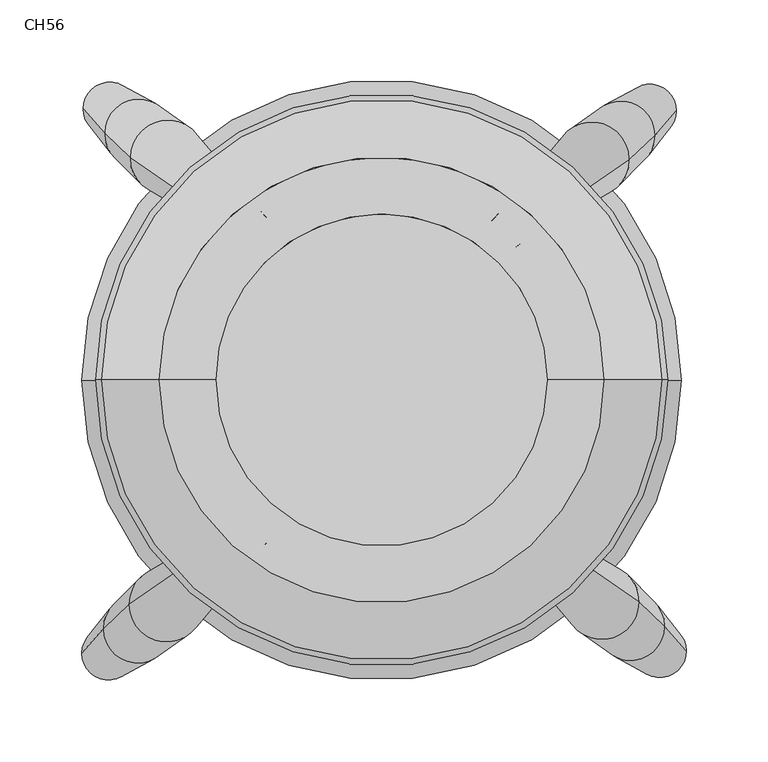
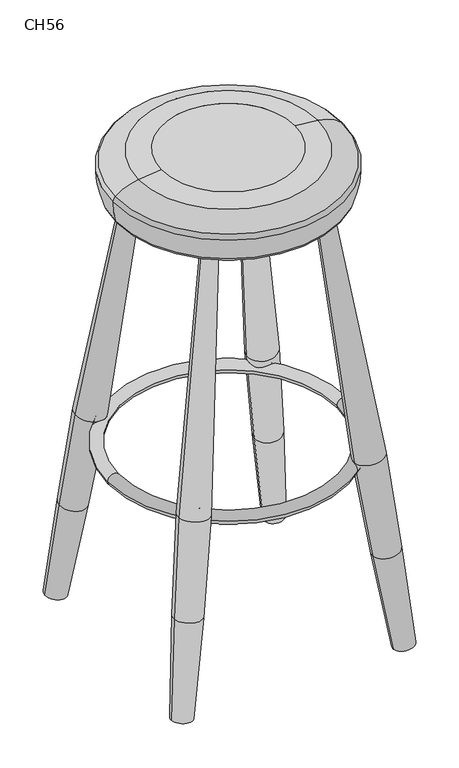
"""IFC4 building model written with IfcOpenShell, lengths in millimetres: furniture geometry, CarlHansen_Seating_Stool_CH56-CH58Barstool : CH56."""

from ifc_helpers import new_model, si_unit, point, frame, origin, place, context, project, spatial, polyline, circle_curve, ellipse_curve, trimmed, source, transform, mapped, element, save
from ifc_brep_helpers import plane_surface, revolved_surface, advanced_brep


def ch56_47536423(model_context):
    return source(origin(), model_context, "Body", "AdvancedBrep", [
        advanced_brep(
        [(-492.5608792, 94.6083852, -3.1092846), (-460.3854724, 94.9926508, 0.6982237), (-476.700753, 94.9926508, 0.6982237), (-514.9278441, 109.5197253, 144.6402127), (-473.4740897, 110.0148007, 149.5456834), (-534.6580982, 124.4365243, 292.4437991), (-489.1386117, 124.980156, 297.8303921), (-575.6798559, 169.0060112, 734.0620063), (-553.3717237, 169.2724335, 736.701861), (-564.4611939, 169.0846871, 734.8415692)],
        [
            (0, 1, circle_curve(frame((-476.4731758, 94.800518, -1.2055305), z_axis=(0.11810468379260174, -0.09971026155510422, -0.9879823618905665), x_axis=(0.9930011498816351, 0.011859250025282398, 0.11750776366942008)), 16.2010924)),
            (1, 2),
            (2, 0),
            (1, 0, circle_curve(frame((-476.4731758, 94.800518, -1.2055305), z_axis=(0.11810468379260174, -0.09971026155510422, -0.9879823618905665), x_axis=(0.9930011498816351, 0.011859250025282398, 0.11750776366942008)), 16.2010924)),
            (3, 4, circle_curve(frame((-494.2009669, 109.767263, 147.0929481), z_axis=(0.11810468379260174, -0.09971026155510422, -0.9879823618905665), x_axis=(0.9930011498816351, 0.011859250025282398, 0.11750776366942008)), 20.8729639)),
            (4, 1),
            (0, 3),
            (4, 3, circle_curve(frame((-494.2009669, 109.767263, 147.0929481), z_axis=(0.11810468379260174, -0.09971026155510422, -0.9879823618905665), x_axis=(0.9930011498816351, 0.011859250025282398, 0.11750776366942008)), 20.8729639)),
            (5, 6, circle_curve(frame((-511.8983549, 124.7083401, 295.1370956), z_axis=(0.11810468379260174, -0.09971026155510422, -0.9879823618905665), x_axis=(0.9930011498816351, 0.011859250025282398, 0.11750776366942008)), 22.920158)),
            (6, 4, circle_curve(frame((-4750.4961621, 72.4411514, -222.7540402), z_axis=(0.0, 0.9949458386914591, -0.10041303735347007), x_axis=(-1.0, 0.0, 0.0)), 4293.3596019)),
            (3, 5, circle_curve(frame((3730.5450893, 173.7288374, 780.8582831), z_axis=(0.0, 0.9949458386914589, -0.10041303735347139), x_axis=(0.9721025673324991, 0.023552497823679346, 0.23337068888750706)), 4293.3596019)),
            (6, 5, circle_curve(frame((-511.8983549, 124.7083401, 295.1370956), z_axis=(0.11810468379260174, -0.09971026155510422, -0.9879823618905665), x_axis=(0.9930011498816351, 0.011859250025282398, 0.11750776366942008)), 22.920158)),
            (7, 8, circle_curve(frame((-564.5257898, 169.1392224, 735.3819337), z_axis=(0.11810468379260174, -0.09971026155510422, -0.9879823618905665), x_axis=(0.9930011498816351, 0.011859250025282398, 0.11750776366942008)), 11.2326819)),
            (8, 6, circle_curve(frame((-10352.1917575, 3.3768902, -907.0795133), z_axis=(0.0, 0.9949458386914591, -0.10041303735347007), x_axis=(-1.0, 0.0, 0.0)), 9937.1229535)),
            (5, 7, circle_curve(frame((9337.2959019, 238.5252151, 1422.8952938), z_axis=(0.0, 0.9949458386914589, -0.10041303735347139), x_axis=(0.9721025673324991, 0.023552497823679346, 0.23337068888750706)), 9937.1229535)),
            (8, 7, circle_curve(frame((-564.5257898, 169.1392224, 735.3819337), z_axis=(0.11810468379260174, -0.09971026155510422, -0.9879823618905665), x_axis=(0.9930011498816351, 0.011859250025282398, 0.11750776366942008)), 11.2326819)),
            (9, 8),
            (7, 9),
        ],
        [
            revolved_surface(polyline([(-476.700753, 94.9926508, 0.6982237), (-460.3854724, 94.9926508, 0.6982237)]), (-563.7051088, 168.4463598, 728.5166825), (-0.11810468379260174, 0.09971026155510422, 0.9879823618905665)),
            revolved_surface(polyline([(-460.3854724, 94.9926508, 0.6982237), (-473.4740897, 110.0148007, 149.5456834)]), (-563.7051088, 168.4463598, 728.5166825), (-0.11810468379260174, 0.09971026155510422, 0.9879823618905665)),
            revolved_surface(trimmed(ellipse_curve(frame((-4750.4961621, 72.4411514, -222.7540402), z_axis=(0.0, -0.9949458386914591, 0.10041303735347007), x_axis=(-1.0, 0.0, 0.0)), 4293.3596019, 4293.3596019), [point((-473.4740897, 110.0148007, 149.5456834))], [point((-489.1386117, 124.980156, 297.8303921))], True, "CARTESIAN"), (-563.7051088, 168.4463598, 728.5166825), (-0.11810468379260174, 0.09971026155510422, 0.9879823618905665)),
            revolved_surface(trimmed(ellipse_curve(frame((-4750.4961621, 72.4411514, -222.7540402), z_axis=(0.0, -0.9949458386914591, 0.10041303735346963), x_axis=(-1.0, 0.0, 0.0)), 4293.3596019, 4293.3596019), [point((-473.4740897, 110.0148007, 149.5456834))], [point((-489.1386117, 124.980156, 297.8303921))], True, "CARTESIAN"), (-563.7051088, 168.4463598, 728.5166825), (-0.11810468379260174, 0.09971026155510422, 0.9879823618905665)),
            revolved_surface(trimmed(ellipse_curve(frame((-10352.1917575, 3.3768902, -907.0795133), z_axis=(0.0, -0.9949458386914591, 0.10041303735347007), x_axis=(-1.0, 0.0, 0.0)), 9937.1229535, 9937.1229535), [point((-489.1386117, 124.980156, 297.8303921))], [point((-553.3717237, 169.2724335, 736.701861))], True, "CARTESIAN"), (-563.7051088, 168.4463598, 728.5166825), (-0.11810468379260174, 0.09971026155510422, 0.9879823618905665)),
            revolved_surface(trimmed(ellipse_curve(frame((-10352.1917575, 3.3768902, -907.0795133), z_axis=(0.0, -0.9949458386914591, 0.10041303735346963), x_axis=(-1.0, 0.0, 0.0)), 9937.1229535, 9937.1229535), [point((-489.1386117, 124.980156, 297.8303921))], [point((-553.3717237, 169.2724335, 736.701861))], True, "CARTESIAN"), (-563.7051088, 168.4463598, 728.5166825), (-0.11810468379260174, 0.09971026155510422, 0.9879823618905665)),
            revolved_surface(polyline([(-553.3717237, 169.2724335, 736.701861), (-564.4611939, 169.0846871, 734.8415692)]), (-563.7051088, 168.4463598, 728.5166825), (-0.11810468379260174, 0.09971026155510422, 0.9879823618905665)),
        ],
        [
            (0, [[1, 2, 3]]),
            (0, [[4, -3, -2]]),
            (1, [[5, 6, -1, 7]]),
            (1, [[8, -7, -4, -6]]),
            (2, [[9, 10, -5, 11]]),
            (3, [[12, -11, -8, -10]]),
            (4, [[13, 14, -9, 15]]),
            (5, [[16, -15, -12, -14]]),
            (6, [[17, -13, 18]]),
            (6, [[-18, -16, -17]]),
        ],
    ),
        advanced_brep(
        [(-813.9718708, 93.4826975, 1.338204), (-830.2871514, 93.4826975, 1.338204), (-798.1117446, 93.0984319, -2.4693043), (-817.1985341, 108.5048474, 150.1856637), (-775.7447797, 108.009772, 145.280193), (-801.5340121, 123.4702028, 298.4703724), (-756.0145256, 122.926571, 293.0837794), (-737.3009001, 167.7624803, 737.3418413), (-714.9927679, 167.4960579, 734.7019866), (-726.2114299, 167.5747338, 735.4815495)],
        [
            (0, 1),
            (1, 2, circle_curve(frame((-814.199448, 93.2905647, -0.5655502), z_axis=(-0.11810468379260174, -0.09971026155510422, -0.9879823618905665), x_axis=(-0.9930011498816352, 0.011859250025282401, 0.11750776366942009)), 16.2010924)),
            (2, 0),
            (2, 1, circle_curve(frame((-814.199448, 93.2905647, -0.5655502), z_axis=(-0.11810468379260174, -0.09971026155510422, -0.9879823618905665), x_axis=(-0.9930011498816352, 0.011859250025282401, 0.11750776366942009)), 16.2010924)),
            (1, 3),
            (3, 4, circle_curve(frame((-796.4716569, 108.2573097, 147.7329283), z_axis=(-0.11810468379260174, -0.09971026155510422, -0.9879823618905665), x_axis=(-0.9930011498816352, 0.011859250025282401, 0.11750776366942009)), 20.8729639)),
            (4, 2),
            (4, 3, circle_curve(frame((-796.4716569, 108.2573097, 147.7329283), z_axis=(-0.11810468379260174, -0.09971026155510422, -0.9879823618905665), x_axis=(-0.9930011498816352, 0.011859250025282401, 0.11750776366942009)), 20.8729639)),
            (3, 5, circle_curve(frame((3459.8235383, 70.9311981, -222.1140599), z_axis=(0.0, 0.9949458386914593, -0.10041303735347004), x_axis=(1.0000000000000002, 0.0, 0.0)), 4293.3596019)),
            (5, 6, circle_curve(frame((-778.7742689, 123.1983869, 295.7770759), z_axis=(-0.11810468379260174, -0.09971026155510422, -0.9879823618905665), x_axis=(-0.9930011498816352, 0.011859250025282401, 0.11750776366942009)), 22.920158)),
            (6, 4, circle_curve(frame((-5021.2177131, 172.2188841, 781.4982633), z_axis=(0.0, 0.994945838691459, -0.10041303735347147), x_axis=(-0.9721025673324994, 0.023552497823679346, 0.23337068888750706)), 4293.3596019)),
            (6, 5, circle_curve(frame((-778.7742689, 123.1983869, 295.7770759), z_axis=(-0.11810468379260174, -0.09971026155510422, -0.9879823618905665), x_axis=(-0.9930011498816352, 0.011859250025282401, 0.11750776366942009)), 22.920158)),
            (5, 7, circle_curve(frame((9061.5191337, 1.8669369, -906.439533), z_axis=(0.0, 0.9949458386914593, -0.10041303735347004), x_axis=(1.0000000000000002, 0.0, 0.0)), 9937.1229535)),
            (7, 8, circle_curve(frame((-726.146834, 167.6292691, 736.021914), z_axis=(-0.11810468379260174, -0.09971026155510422, -0.9879823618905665), x_axis=(-0.9930011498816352, 0.011859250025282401, 0.11750776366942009)), 11.2326819)),
            (8, 6, circle_curve(frame((-10627.9685257, 237.0152618, 1423.5352741), z_axis=(0.0, 0.994945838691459, -0.10041303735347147), x_axis=(-0.9721025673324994, 0.023552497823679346, 0.23337068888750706)), 9937.1229535)),
            (8, 7, circle_curve(frame((-726.146834, 167.6292691, 736.021914), z_axis=(-0.11810468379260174, -0.09971026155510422, -0.9879823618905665), x_axis=(-0.9930011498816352, 0.011859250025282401, 0.11750776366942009)), 11.2326819)),
            (7, 9),
            (9, 8),
        ],
        [
            revolved_surface(polyline([(-830.2871514, 93.4826975, 1.338204), (-813.9718708, 93.4826975, 1.338204)]), (-726.967515, 166.9364065, 729.1566628), (-0.11810468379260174, -0.09971026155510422, -0.9879823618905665)),
            revolved_surface(polyline([(-817.1985341, 108.5048474, 150.1856637), (-830.2871514, 93.4826975, 1.338204)]), (-726.967515, 166.9364065, 729.1566628), (-0.11810468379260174, -0.09971026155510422, -0.9879823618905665)),
            revolved_surface(trimmed(ellipse_curve(frame((3459.8235383, 70.9311981, -222.1140599), z_axis=(0.0, -0.9949458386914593, 0.10041303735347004), x_axis=(1.0000000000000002, 0.0, 0.0)), 4293.3596019, 4293.3596019), [point((-801.5340121, 123.4702028, 298.4703724))], [point((-817.1985341, 108.5048474, 150.1856637))], True, "CARTESIAN"), (-726.967515, 166.9364065, 729.1566628), (-0.11810468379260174, -0.09971026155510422, -0.9879823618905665)),
            revolved_surface(trimmed(ellipse_curve(frame((3459.8235383, 70.9311981, -222.1140599), z_axis=(0.0, -0.9949458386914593, 0.10041303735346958), x_axis=(1.0000000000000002, 0.0, 0.0)), 4293.3596019, 4293.3596019), [point((-801.5340121, 123.4702028, 298.4703724))], [point((-817.1985341, 108.5048474, 150.1856637))], True, "CARTESIAN"), (-726.967515, 166.9364065, 729.1566628), (-0.11810468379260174, -0.09971026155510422, -0.9879823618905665)),
            revolved_surface(trimmed(ellipse_curve(frame((9061.5191337, 1.8669369, -906.439533), z_axis=(0.0, -0.9949458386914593, 0.10041303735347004), x_axis=(1.0000000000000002, 0.0, 0.0)), 9937.1229535, 9937.1229535), [point((-737.3009001, 167.7624803, 737.3418413))], [point((-801.5340121, 123.4702028, 298.4703724))], True, "CARTESIAN"), (-726.967515, 166.9364065, 729.1566628), (-0.11810468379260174, -0.09971026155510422, -0.9879823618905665)),
            revolved_surface(trimmed(ellipse_curve(frame((9061.5191337, 1.8669369, -906.439533), z_axis=(0.0, -0.9949458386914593, 0.10041303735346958), x_axis=(1.0000000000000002, 0.0, 0.0)), 9937.1229535, 9937.1229535), [point((-737.3009001, 167.7624803, 737.3418413))], [point((-801.5340121, 123.4702028, 298.4703724))], True, "CARTESIAN"), (-726.967515, 166.9364065, 729.1566628), (-0.11810468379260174, -0.09971026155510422, -0.9879823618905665)),
            revolved_surface(polyline([(-726.2114299, 167.5747338, 735.4815495), (-737.3009001, 167.7624803, 737.3418413)]), (-726.967515, 166.9364065, 729.1566628), (-0.11810468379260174, -0.09971026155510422, -0.9879823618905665)),
        ],
        [
            (0, [[1, 2, 3]]),
            (0, [[-3, 4, -1]]),
            (1, [[-2, 5, 6, 7]]),
            (1, [[-4, -7, 8, -5]]),
            (2, [[-6, 9, 10, 11]]),
            (3, [[-8, -11, 12, -9]]),
            (4, [[-10, 13, 14, 15]]),
            (5, [[-12, -15, 16, -13]]),
            (6, [[-14, 17, 18]]),
            (6, [[-16, -18, -17]]),
        ],
    ),
        advanced_brep(
        [(-482.7138822, 425.529395, 9.366719), (-466.3986016, 425.529395, 9.366719), (-498.5740083, 425.9136606, 5.5592107), (-479.4872189, 410.5072451, 158.2141787), (-520.9409732, 411.0023205, 153.3087081), (-495.1517408, 395.5418898, 306.4988875), (-540.6712274, 396.0855216, 301.1122944), (-559.3848529, 351.2496123, 745.3703563), (-581.692985, 351.5160346, 742.7305017), (-570.4743231, 351.4373587, 743.5100645)],
        [
            (0, 1),
            (1, 2, circle_curve(frame((-482.486305, 425.7215278, 7.4629649), z_axis=(0.11810468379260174, 0.09971026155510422, -0.9879823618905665), x_axis=(0.9930011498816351, -0.011859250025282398, 0.11750776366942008)), 16.2010924)),
            (2, 0),
            (2, 1, circle_curve(frame((-482.486305, 425.7215278, 7.4629649), z_axis=(0.11810468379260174, 0.09971026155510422, -0.9879823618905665), x_axis=(0.9930011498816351, -0.011859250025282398, 0.11750776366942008)), 16.2010924)),
            (1, 3),
            (3, 4, circle_curve(frame((-500.2140961, 410.7547828, 155.7614434), z_axis=(0.11810468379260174, 0.09971026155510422, -0.9879823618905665), x_axis=(0.9930011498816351, -0.011859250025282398, 0.11750776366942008)), 20.8729639)),
            (4, 2),
            (4, 3, circle_curve(frame((-500.2140961, 410.7547828, 155.7614434), z_axis=(0.11810468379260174, 0.09971026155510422, -0.9879823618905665), x_axis=(0.9930011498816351, -0.011859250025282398, 0.11750776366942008)), 20.8729639)),
            (3, 5, circle_curve(frame((-4756.5092913, 448.0808944, -214.0855449), z_axis=(0.0, -0.9949458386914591, -0.10041303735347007), x_axis=(-1.0, 0.0, 0.0)), 4293.3596019)),
            (5, 6, circle_curve(frame((-517.9114841, 395.8137057, 303.8055909), z_axis=(0.11810468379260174, 0.09971026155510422, -0.9879823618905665), x_axis=(0.9930011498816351, -0.011859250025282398, 0.11750776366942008)), 22.920158)),
            (6, 4, circle_curve(frame((3724.5319602, 346.7932084, 789.5267784), z_axis=(0.0, -0.9949458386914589, -0.10041303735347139), x_axis=(0.9721025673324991, -0.023552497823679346, 0.23337068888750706)), 4293.3596019)),
            (6, 5, circle_curve(frame((-517.9114841, 395.8137057, 303.8055909), z_axis=(0.11810468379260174, 0.09971026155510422, -0.9879823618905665), x_axis=(0.9930011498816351, -0.011859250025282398, 0.11750776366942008)), 22.920158)),
            (5, 7, circle_curve(frame((-10358.2048867, 517.1451557, -898.411018), z_axis=(0.0, -0.9949458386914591, -0.10041303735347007), x_axis=(-1.0, 0.0, 0.0)), 9937.1229535)),
            (7, 8, circle_curve(frame((-570.538919, 351.3828235, 744.050429), z_axis=(0.11810468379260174, 0.09971026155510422, -0.9879823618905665), x_axis=(0.9930011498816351, -0.011859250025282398, 0.11750776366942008)), 11.2326819)),
            (8, 6, circle_curve(frame((9331.2827728, 281.9968308, 1431.5637891), z_axis=(0.0, -0.9949458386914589, -0.10041303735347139), x_axis=(0.9721025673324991, -0.023552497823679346, 0.23337068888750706)), 9937.1229535)),
            (8, 7, circle_curve(frame((-570.538919, 351.3828235, 744.050429), z_axis=(0.11810468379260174, 0.09971026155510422, -0.9879823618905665), x_axis=(0.9930011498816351, -0.011859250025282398, 0.11750776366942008)), 11.2326819)),
            (7, 9),
            (9, 8),
        ],
        [
            revolved_surface(polyline([(-466.3986016, 425.529395, 9.366719), (-482.7138822, 425.529395, 9.366719)]), (-569.718238, 352.075686, 737.1851779), (0.11810468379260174, 0.09971026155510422, -0.9879823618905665)),
            revolved_surface(polyline([(-479.4872189, 410.5072451, 158.2141787), (-466.3986016, 425.529395, 9.366719)]), (-569.718238, 352.075686, 737.1851779), (0.11810468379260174, 0.09971026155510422, -0.9879823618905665)),
            revolved_surface(trimmed(ellipse_curve(frame((-4756.5092913, 448.0808944, -214.0855449), z_axis=(0.0, 0.9949458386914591, 0.10041303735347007), x_axis=(-1.0, 0.0, 0.0)), 4293.3596019, 4293.3596019), [point((-495.1517408, 395.5418898, 306.4988875))], [point((-479.4872189, 410.5072451, 158.2141787))], True, "CARTESIAN"), (-569.718238, 352.075686, 737.1851779), (0.11810468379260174, 0.09971026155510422, -0.9879823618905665)),
            revolved_surface(trimmed(ellipse_curve(frame((-4756.5092913, 448.0808944, -214.0855449), z_axis=(0.0, 0.9949458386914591, 0.10041303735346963), x_axis=(-1.0, 0.0, 0.0)), 4293.3596019, 4293.3596019), [point((-495.1517408, 395.5418898, 306.4988875))], [point((-479.4872189, 410.5072451, 158.2141787))], True, "CARTESIAN"), (-569.718238, 352.075686, 737.1851779), (0.11810468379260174, 0.09971026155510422, -0.9879823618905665)),
            revolved_surface(trimmed(ellipse_curve(frame((-10358.2048867, 517.1451557, -898.411018), z_axis=(0.0, 0.9949458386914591, 0.10041303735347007), x_axis=(-1.0, 0.0, 0.0)), 9937.1229535, 9937.1229535), [point((-559.3848529, 351.2496123, 745.3703563))], [point((-495.1517408, 395.5418898, 306.4988875))], True, "CARTESIAN"), (-569.718238, 352.075686, 737.1851779), (0.11810468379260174, 0.09971026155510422, -0.9879823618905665)),
            revolved_surface(trimmed(ellipse_curve(frame((-10358.2048867, 517.1451557, -898.411018), z_axis=(0.0, 0.9949458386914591, 0.10041303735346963), x_axis=(-1.0, 0.0, 0.0)), 9937.1229535, 9937.1229535), [point((-559.3848529, 351.2496123, 745.3703563))], [point((-495.1517408, 395.5418898, 306.4988875))], True, "CARTESIAN"), (-569.718238, 352.075686, 737.1851779), (0.11810468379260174, 0.09971026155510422, -0.9879823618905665)),
            revolved_surface(polyline([(-570.4743231, 351.4373587, 743.5100645), (-559.3848529, 351.2496123, 745.3703563)]), (-569.718238, 352.075686, 737.1851779), (0.11810468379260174, 0.09971026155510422, -0.9879823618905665)),
        ],
        [
            (0, [[1, 2, 3]]),
            (0, [[-3, 4, -1]]),
            (1, [[-2, 5, 6, 7]]),
            (1, [[-4, -7, 8, -5]]),
            (2, [[-6, 9, 10, 11]]),
            (3, [[-8, -11, 12, -9]]),
            (4, [[-10, 13, 14, 15]]),
            (5, [[-12, -15, 16, -13]]),
            (6, [[-14, 17, 18]]),
            (6, [[-16, -18, -17]]),
        ],
    ),
        advanced_brep(
        [(-797.3298053, 427.0616167, -3.6035523), (-829.5052121, 426.6773511, 0.2039559), (-813.1899315, 426.6773511, 0.2039559), (-774.9628405, 412.1502766, 144.145945), (-816.4165948, 411.6552012, 149.0514156), (-755.2325863, 397.2334777, 291.9495314), (-800.7520729, 396.6898459, 297.3361244), (-714.2108287, 352.6639908, 733.5677386), (-736.5189608, 352.3975684, 736.2075933), (-725.4294906, 352.5853149, 734.3473015)],
        [
            (0, 1, circle_curve(frame((-813.4175087, 426.8694839, -1.6997982), z_axis=(-0.11810468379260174, 0.09971026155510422, -0.9879823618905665), x_axis=(-0.9930011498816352, -0.011859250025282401, 0.11750776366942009)), 16.2010924)),
            (1, 2),
            (2, 0),
            (1, 0, circle_curve(frame((-813.4175087, 426.8694839, -1.6997982), z_axis=(-0.11810468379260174, 0.09971026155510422, -0.9879823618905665), x_axis=(-0.9930011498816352, -0.011859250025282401, 0.11750776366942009)), 16.2010924)),
            (3, 4, circle_curve(frame((-795.6897176, 411.9027389, 146.5986803), z_axis=(-0.11810468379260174, 0.09971026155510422, -0.9879823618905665), x_axis=(-0.9930011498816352, -0.011859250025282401, 0.11750776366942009)), 20.8729639)),
            (4, 1),
            (0, 3),
            (4, 3, circle_curve(frame((-795.6897176, 411.9027389, 146.5986803), z_axis=(-0.11810468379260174, 0.09971026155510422, -0.9879823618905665), x_axis=(-0.9930011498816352, -0.011859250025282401, 0.11750776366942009)), 20.8729639)),
            (5, 6, circle_curve(frame((-777.9923296, 396.9616618, 294.6428279), z_axis=(-0.11810468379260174, 0.09971026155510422, -0.9879823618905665), x_axis=(-0.9930011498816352, -0.011859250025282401, 0.11750776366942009)), 22.920158)),
            (6, 4, circle_curve(frame((3460.6054776, 449.2288506, -223.248308), z_axis=(0.0, -0.9949458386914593, -0.10041303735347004), x_axis=(1.0000000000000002, 0.0, 0.0)), 4293.3596019)),
            (3, 5, circle_curve(frame((-5020.4357739, 347.9411646, 780.3640153), z_axis=(0.0, -0.994945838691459, -0.10041303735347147), x_axis=(-0.9721025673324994, -0.023552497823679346, 0.23337068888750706)), 4293.3596019)),
            (6, 5, circle_curve(frame((-777.9923296, 396.9616618, 294.6428279), z_axis=(-0.11810468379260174, 0.09971026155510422, -0.9879823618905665), x_axis=(-0.9930011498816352, -0.011859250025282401, 0.11750776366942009)), 22.920158)),
            (7, 8, circle_curve(frame((-725.3648947, 352.5307796, 734.8876659), z_axis=(-0.11810468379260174, 0.09971026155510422, -0.9879823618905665), x_axis=(-0.9930011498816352, -0.011859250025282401, 0.11750776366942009)), 11.2326819)),
            (8, 6, circle_curve(frame((9062.301073, 518.2931118, -907.573781), z_axis=(0.0, -0.9949458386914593, -0.10041303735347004), x_axis=(1.0000000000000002, 0.0, 0.0)), 9937.1229535)),
            (5, 7, circle_curve(frame((-10627.1865865, 283.1447869, 1422.4010261), z_axis=(0.0, -0.994945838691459, -0.10041303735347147), x_axis=(-0.9721025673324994, -0.023552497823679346, 0.23337068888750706)), 9937.1229535)),
            (8, 7, circle_curve(frame((-725.3648947, 352.5307796, 734.8876659), z_axis=(-0.11810468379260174, 0.09971026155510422, -0.9879823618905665), x_axis=(-0.9930011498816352, -0.011859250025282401, 0.11750776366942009)), 11.2326819)),
            (9, 8),
            (7, 9),
        ],
        [
            revolved_surface(polyline([(-813.1899315, 426.6773511, 0.2039559), (-829.5052121, 426.6773511, 0.2039559)]), (-726.1855757, 353.2236421, 728.0224148), (0.11810468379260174, -0.09971026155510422, 0.9879823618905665)),
            revolved_surface(polyline([(-829.5052121, 426.6773511, 0.2039559), (-816.4165948, 411.6552012, 149.0514156)]), (-726.1855757, 353.2236421, 728.0224148), (0.11810468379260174, -0.09971026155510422, 0.9879823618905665)),
            revolved_surface(trimmed(ellipse_curve(frame((3460.6054776, 449.2288506, -223.248308), z_axis=(0.0, 0.9949458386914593, 0.10041303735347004), x_axis=(1.0000000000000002, 0.0, 0.0)), 4293.3596019, 4293.3596019), [point((-816.4165948, 411.6552012, 149.0514156))], [point((-800.7520729, 396.6898459, 297.3361244))], True, "CARTESIAN"), (-726.1855757, 353.2236421, 728.0224148), (0.11810468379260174, -0.09971026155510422, 0.9879823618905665)),
            revolved_surface(trimmed(ellipse_curve(frame((3460.6054776, 449.2288506, -223.248308), z_axis=(0.0, 0.9949458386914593, 0.10041303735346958), x_axis=(1.0000000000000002, 0.0, 0.0)), 4293.3596019, 4293.3596019), [point((-816.4165948, 411.6552012, 149.0514156))], [point((-800.7520729, 396.6898459, 297.3361244))], True, "CARTESIAN"), (-726.1855757, 353.2236421, 728.0224148), (0.11810468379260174, -0.09971026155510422, 0.9879823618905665)),
            revolved_surface(trimmed(ellipse_curve(frame((9062.301073, 518.2931118, -907.573781), z_axis=(0.0, 0.9949458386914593, 0.10041303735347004), x_axis=(1.0000000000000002, 0.0, 0.0)), 9937.1229535, 9937.1229535), [point((-800.7520729, 396.6898459, 297.3361244))], [point((-736.5189608, 352.3975684, 736.2075933))], True, "CARTESIAN"), (-726.1855757, 353.2236421, 728.0224148), (0.11810468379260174, -0.09971026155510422, 0.9879823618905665)),
            revolved_surface(trimmed(ellipse_curve(frame((9062.301073, 518.2931118, -907.573781), z_axis=(0.0, 0.9949458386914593, 0.10041303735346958), x_axis=(1.0000000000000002, 0.0, 0.0)), 9937.1229535, 9937.1229535), [point((-800.7520729, 396.6898459, 297.3361244))], [point((-736.5189608, 352.3975684, 736.2075933))], True, "CARTESIAN"), (-726.1855757, 353.2236421, 728.0224148), (0.11810468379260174, -0.09971026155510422, 0.9879823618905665)),
            revolved_surface(polyline([(-736.5189608, 352.3975684, 736.2075933), (-725.4294906, 352.5853149, 734.3473015)]), (-726.1855757, 353.2236421, 728.0224148), (0.11810468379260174, -0.09971026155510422, 0.9879823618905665)),
        ],
        [
            (0, [[1, 2, 3]]),
            (0, [[4, -3, -2]]),
            (1, [[5, 6, -1, 7]]),
            (1, [[8, -7, -4, -6]]),
            (2, [[9, 10, -5, 11]]),
            (3, [[12, -11, -8, -10]]),
            (4, [[13, 14, -9, 15]]),
            (5, [[16, -15, -12, -14]]),
            (6, [[17, -13, 18]]),
            (6, [[-18, -16, -17]]),
        ],
    ),
        advanced_brep(
        [(-811.3619303, 260.6903236, 283.6187616), (-482.3426637, 260.6903236, 283.6187616), (-463.3289833, 260.6903236, 283.6187616), (-830.3756106, 260.6903236, 283.6187616)],
        [
            (0, 1, circle_curve(frame((-646.852297, 260.6903236, 283.6187616), z_axis=(0.0, 0.0, -1.0), x_axis=(1.0, 0.0, 0.0)), 164.5096333)),
            (1, 2, circle_curve(frame((-472.8358235, 260.6903236, 283.6187616), z_axis=(0.0, 1.0, 0.0), x_axis=(-1.0, 0.0, 0.0)), 9.5068402)),
            (2, 3, circle_curve(frame((-646.852297, 260.6903236, 283.6187616), z_axis=(0.0, 0.0, 1.0), x_axis=(1.0, 0.0, 0.0)), 183.5233137)),
            (3, 0, circle_curve(frame((-820.8687704, 260.6903236, 283.6187616), z_axis=(0.0, 1.0, 0.0), x_axis=(1.0, 0.0, 0.0)), 9.5068402)),
            (2, 1, circle_curve(frame((-472.8358235, 260.6903236, 283.6187616), z_axis=(0.0, 1.0, 0.0), x_axis=(-1.0, 0.0, 0.0)), 9.5068402)),
            (0, 3, circle_curve(frame((-820.8687704, 260.6903236, 283.6187616), z_axis=(0.0, 1.0, 0.0), x_axis=(1.0, 0.0, 0.0)), 9.5068402)),
            (1, 0, circle_curve(frame((-646.852297, 260.6903236, 283.6187616), z_axis=(0.0, 0.0, -1.0), x_axis=(-1.0, 0.0, 0.0)), 164.5096333)),
            (3, 2, circle_curve(frame((-646.852297, 260.6903236, 283.6187616), z_axis=(0.0, 0.0, 1.0), x_axis=(-1.0, 0.0, 0.0)), 183.5233137)),
        ],
        [
            revolved_surface(trimmed(ellipse_curve(frame((-472.8358235, 260.6903236, 283.6187616), z_axis=(0.0, -1.0, 0.0), x_axis=(-1.0, 0.0, 0.0)), 9.5068402, 9.5068402), [point((-463.3289833, 260.6903236, 283.6187616))], [point((-482.3426637, 260.6903236, 283.6187616))], True, "CARTESIAN"), (-646.852297, 260.6903236, 283.6187616), (0.0, 0.0, 1.0)),
            revolved_surface(trimmed(ellipse_curve(frame((-472.8358235, 260.6903236, 283.6187616), z_axis=(0.0, -1.0, 0.0), x_axis=(-1.0, 0.0, 0.0)), 9.5068402, 9.5068402), [point((-482.3426637, 260.6903236, 283.6187616))], [point((-463.3289833, 260.6903236, 283.6187616))], True, "CARTESIAN"), (-646.852297, 260.6903236, 283.6187616), (0.0, 0.0, 1.0)),
            revolved_surface(trimmed(ellipse_curve(frame((-820.8687704, 260.6903236, 283.6187616), z_axis=(0.0, 1.0, 0.0), x_axis=(1.0, 0.0, 0.0)), 9.5068402, 9.5068402), [point((-830.3756106, 260.6903236, 283.6187616))], [point((-811.3619303, 260.6903236, 283.6187616))], True, "CARTESIAN"), (-646.852297, 260.6903236, 283.6187616), (0.0, 0.0, 1.0)),
            revolved_surface(trimmed(ellipse_curve(frame((-820.8687704, 260.6903236, 283.6187616), z_axis=(0.0, 1.0, 0.0), x_axis=(1.0, 0.0, 0.0)), 9.5068402, 9.5068402), [point((-811.3619303, 260.6903236, 283.6187616))], [point((-830.3756106, 260.6903236, 283.6187616))], True, "CARTESIAN"), (-646.852297, 260.6903236, 283.6187616), (0.0, 0.0, 1.0)),
        ],
        [
            (0, [[1, 2, 3, 4]]),
            (1, [[-3, 5, -1, 6]]),
            (2, [[7, -4, 8, -2]]),
            (3, [[-8, -6, -7, -5]]),
        ],
    ),
        advanced_brep(
        [(-476.9136862, 260.6903236, 695.3593771), (-816.7909077, 260.6903236, 695.3593771), (-808.4704267, 260.6903236, 689.3693732), (-485.2341673, 260.6903236, 689.3693732), (-471.8145799, 260.6903236, 728.6783111), (-821.890014, 260.6903236, 728.6783111), (-475.1651022, 260.6903236, 735.8588805), (-818.5394918, 260.6903236, 735.8588805), (-510.4616011, 260.6903236, 751.2313505), (-783.2429929, 260.6903236, 751.2313505), (-545.252297, 260.6903236, 754.888), (-748.452297, 260.6903236, 754.888)],
        [
            (0, 1, circle_curve(frame((-646.852297, 260.6903236, 695.3593771), z_axis=(0.0, 0.0, -1.0), x_axis=(-1.0, 0.0, 0.0)), 169.9386108)),
            (1, 2, circle_curve(frame((-808.4704267, 260.6903236, 698.1432032), z_axis=(0.0, -1.0, 0.0), x_axis=(1.0, 0.0, 0.0)), 8.77383)),
            (2, 3, circle_curve(frame((-646.852297, 260.6903236, 689.3693732), z_axis=(0.0, 0.0, 1.0), x_axis=(-1.0, 0.0, 0.0)), 161.6181297)),
            (3, 0, circle_curve(frame((-485.2341673, 260.6903236, 698.1432032), z_axis=(0.0, -1.0, 0.0), x_axis=(-1.0, 0.0, 0.0)), 8.77383)),
            (0, 4, circle_curve(frame((-570.8325998, 260.6903236, 726.7823106), z_axis=(0.0, -1.0, 0.0), x_axis=(-1.0, 0.0, 0.0)), 99.0361706)),
            (4, 5, circle_curve(frame((-646.852297, 260.6903236, 728.6783111), z_axis=(0.0, 0.0, -1.0), x_axis=(-1.0, 0.0, 0.0)), 175.0377171)),
            (5, 1, circle_curve(frame((-722.8719941, 260.6903236, 726.7823106), z_axis=(0.0, -1.0, 0.0), x_axis=(1.0, 0.0, 0.0)), 99.0361706)),
            (4, 6, circle_curve(frame((-481.5852026, 260.6903236, 728.4912228), z_axis=(0.0, -1.0, 0.0), x_axis=(-1.0, 0.0, 0.0)), 9.7724137)),
            (6, 7, circle_curve(frame((-646.852297, 260.6903236, 735.8588805), z_axis=(0.0, 0.0, -1.0), x_axis=(-1.0, 0.0, 0.0)), 171.6871948)),
            (7, 5, circle_curve(frame((-812.1193914, 260.6903236, 728.4912228), z_axis=(0.0, -1.0, 0.0), x_axis=(1.0, 0.0, 0.0)), 9.7724137)),
            (6, 8, circle_curve(frame((-517.1402172, 260.6903236, 687.6885626), z_axis=(0.0, -1.0, 0.0), x_axis=(-1.0, 0.0, 0.0)), 63.8927994)),
            (8, 9, circle_curve(frame((-646.852297, 260.6903236, 751.2313505), z_axis=(0.0, 0.0, -1.0), x_axis=(-1.0, 0.0, 0.0)), 136.3906959)),
            (9, 7, circle_curve(frame((-776.5643768, 260.6903236, 687.6885626), z_axis=(0.0, -1.0, 0.0), x_axis=(1.0, 0.0, 0.0)), 63.8927994)),
            (8, 10),
            (10, 11, circle_curve(frame((-646.852297, 260.6903236, 754.888), z_axis=(0.0, 0.0, -1.0), x_axis=(-1.0, 0.0, 0.0)), 101.6)),
            (11, 9),
            (2, 3, circle_curve(frame((-646.852297, 260.6903236, 689.3693732), z_axis=(0.0, 0.0, -1.0), x_axis=(1.0, 0.0, 0.0)), 161.6181297)),
            (1, 0, circle_curve(frame((-646.852297, 260.6903236, 695.3593771), z_axis=(0.0, 0.0, -1.0), x_axis=(1.0, 0.0, 0.0)), 169.9386108)),
            (5, 4, circle_curve(frame((-646.852297, 260.6903236, 728.6783111), z_axis=(0.0, 0.0, -1.0), x_axis=(1.0, 0.0, 0.0)), 175.0377171)),
            (7, 6, circle_curve(frame((-646.852297, 260.6903236, 735.8588805), z_axis=(0.0, 0.0, -1.0), x_axis=(1.0, 0.0, 0.0)), 171.6871948)),
            (9, 8, circle_curve(frame((-646.852297, 260.6903236, 751.2313505), z_axis=(0.0, 0.0, -1.0), x_axis=(1.0, 0.0, 0.0)), 136.3906959)),
            (11, 10, circle_curve(frame((-646.852297, 260.6903236, 754.888), z_axis=(0.0, 0.0, -1.0), x_axis=(1.0, 0.0, 0.0)), 101.6)),
        ],
        [
            revolved_surface(trimmed(ellipse_curve(frame((-808.4704267, 260.6903236, 698.1432032), z_axis=(0.0, 1.0, 0.0), x_axis=(1.0, 0.0, 0.0)), 8.77383, 8.77383), [point((-808.4704267, 260.6903236, 689.3693732))], [point((-816.7909077, 260.6903236, 695.3593771))], True, "CARTESIAN"), (-646.852297, 260.6903236, 689.3693732), (0.0, 0.0, 1.0)),
            revolved_surface(trimmed(ellipse_curve(frame((-722.8719941, 260.6903236, 726.7823106), z_axis=(0.0, 1.0, 0.0), x_axis=(1.0, 0.0, 0.0)), 99.0361706, 99.0361706), [point((-816.7909077, 260.6903236, 695.3593771))], [point((-821.890014, 260.6903236, 728.6783111))], True, "CARTESIAN"), (-646.852297, 260.6903236, 689.3693732), (0.0, 0.0, 1.0)),
            revolved_surface(trimmed(ellipse_curve(frame((-812.1193914, 260.6903236, 728.4912228), z_axis=(0.0, 1.0, 0.0), x_axis=(1.0, 0.0, 0.0)), 9.7724137, 9.7724137), [point((-821.890014, 260.6903236, 728.6783111))], [point((-818.5394918, 260.6903236, 735.8588805))], True, "CARTESIAN"), (-646.852297, 260.6903236, 689.3693732), (0.0, 0.0, 1.0)),
            revolved_surface(trimmed(ellipse_curve(frame((-776.5643768, 260.6903236, 687.6885626), z_axis=(0.0, 1.0, 0.0), x_axis=(1.0, 0.0, 0.0)), 63.8927994, 63.8927994), [point((-818.5394918, 260.6903236, 735.8588805))], [point((-783.2429929, 260.6903236, 751.2313505))], True, "CARTESIAN"), (-646.852297, 260.6903236, 689.3693732), (0.0, 0.0, 1.0)),
            revolved_surface(polyline([(-783.2429929, 260.6903236, 751.2313505), (-748.452297, 260.6903236, 754.888)]), (-646.852297, 260.6903236, 689.3693732), (0.0, 0.0, 1.0)),
            plane_surface(frame((-646.852297, 260.6903236, 689.3693732), z_axis=(0.0, 0.0, -1.0), x_axis=(1.0, 0.0, 0.0))),
            revolved_surface(trimmed(ellipse_curve(frame((-485.2341673, 260.6903236, 698.1432032), z_axis=(0.0, -1.0, 0.0), x_axis=(-1.0, 0.0, 0.0)), 8.77383, 8.77383), [point((-485.2341673, 260.6903236, 689.3693732))], [point((-476.9136862, 260.6903236, 695.3593771))], True, "CARTESIAN"), (-646.852297, 260.6903236, 689.3693732), (0.0, 0.0, 1.0)),
            revolved_surface(trimmed(ellipse_curve(frame((-570.8325998, 260.6903236, 726.7823106), z_axis=(0.0, -1.0, 0.0), x_axis=(-1.0, 0.0, 0.0)), 99.0361706, 99.0361706), [point((-476.9136862, 260.6903236, 695.3593771))], [point((-471.8145799, 260.6903236, 728.6783111))], True, "CARTESIAN"), (-646.852297, 260.6903236, 689.3693732), (0.0, 0.0, 1.0)),
            revolved_surface(trimmed(ellipse_curve(frame((-481.5852026, 260.6903236, 728.4912228), z_axis=(0.0, -1.0, 0.0), x_axis=(-1.0, 0.0, 0.0)), 9.7724137, 9.7724137), [point((-471.8145799, 260.6903236, 728.6783111))], [point((-475.1651022, 260.6903236, 735.8588805))], True, "CARTESIAN"), (-646.852297, 260.6903236, 689.3693732), (0.0, 0.0, 1.0)),
            revolved_surface(trimmed(ellipse_curve(frame((-517.1402172, 260.6903236, 687.6885626), z_axis=(0.0, -1.0, 0.0), x_axis=(-1.0, 0.0, 0.0)), 63.8927994, 63.8927994), [point((-475.1651022, 260.6903236, 735.8588805))], [point((-510.4616011, 260.6903236, 751.2313505))], True, "CARTESIAN"), (-646.852297, 260.6903236, 689.3693732), (0.0, 0.0, 1.0)),
            revolved_surface(polyline([(-510.4616011, 260.6903236, 751.2313505), (-545.252297, 260.6903236, 754.888)]), (-646.852297, 260.6903236, 689.3693732), (0.0, 0.0, 1.0)),
            plane_surface(frame((-545.252297, 260.6903236, 754.888), z_axis=(0.0, 0.0, 1.0), x_axis=(0.0, 1.0, 0.0))),
        ],
        [
            (0, [[1, 2, 3, 4]]),
            (1, [[-1, 5, 6, 7]]),
            (2, [[-6, 8, 9, 10]]),
            (3, [[-9, 11, 12, 13]]),
            (4, [[-12, 14, 15, 16]]),
            (5, [[-3, 17]]),
            (6, [[-2, 18, -4, -17]]),
            (7, [[-7, 19, -5, -18]]),
            (8, [[-10, 20, -8, -19]]),
            (9, [[-13, 21, -11, -20]]),
            (10, [[-16, 22, -14, -21]]),
            (11, [[-15, -22]]),
        ],
    ),
    ])


if __name__ == "__main__":
    model = new_model("IFC4")
    model_context = context("Model", 3, world=origin())
    ifc_project = project(units=[si_unit("LENGTHUNIT", "METRE", prefix="MILLI")], contexts=[model_context])
    site = spatial("IfcSite", under=ifc_project)
    building = spatial("IfcBuilding", under=site)
    placement = place(None, origin())
    ch56_shape = ch56_47536423(model_context)
    element("IfcFurniture", 1, ObjectType="CarlHansen_Seating_Stool_CH56-CH58Barstool : CH56", at=placement, inside=building, context=model_context, shape_type="MappedRepresentation", body=[
        mapped(ch56_shape, transform((0.0, 0.0, 0.0), x_axis=(1.0, 0.0, 0.0), y_axis=(0.0, 1.0, 0.0), z_axis=(0.0, 0.0, 1.0))),
    ])
    save(model, "model.ifc")
